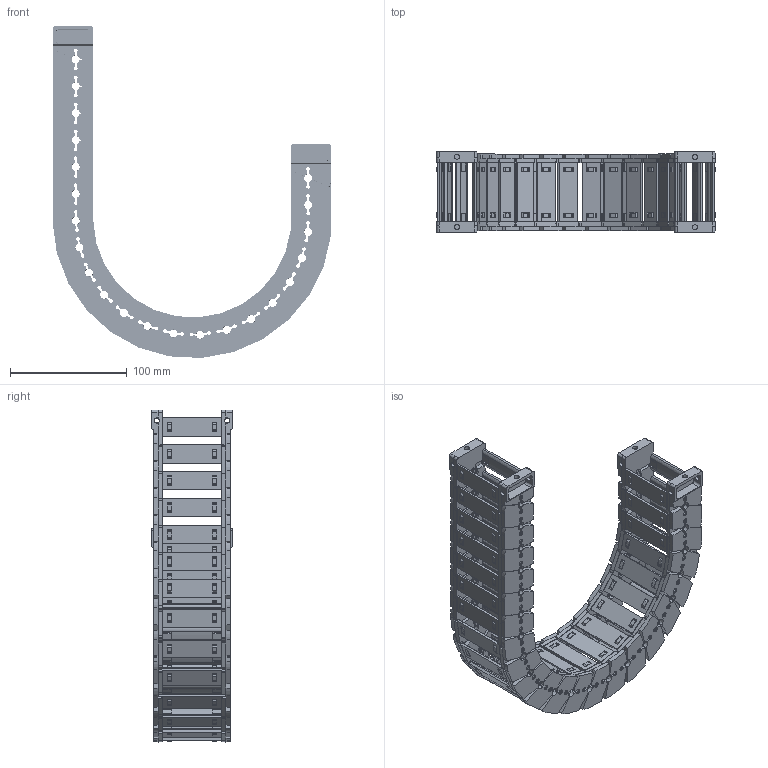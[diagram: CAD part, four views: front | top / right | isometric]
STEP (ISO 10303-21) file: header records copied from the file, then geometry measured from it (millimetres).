
FILE_DESCRIPTION((''),'2;1');
FILE_NAME('JY-28X50-R100_ASM','2026-03-25T19:26:03',('admin'),(''),'CREO PARAMETRIC BY PTC INC, 2021023','CREO PARAMETRIC BY PTC INC, 2021023','');
FILE_SCHEMA(('CONFIG_CONTROL_DESIGN'));
Length unit declared in the file: millimetre
Products named in the file (11): 28XL-L; 25-35XL-YP; 28XL-R; ASM0001_ASM; 28-LTT-A-L; 28-LTT-A-R; 28XL-LTT-A_ASM; 28-LTT-B-L; 28-LTT-B-R; 28XL-LTT-B_ASM; JY-28X50-R100_ASM
Assembly tree (35 placements, depth 3):
  JY-28X50-R100_ASM
    ASM0001_ASM  x21
      28XL-L
      25-35XL-YP
      28XL-R
    28XL-LTT-A_ASM
      28-LTT-A-L
      25-35XL-YP  x2
      28-LTT-A-R
    28XL-LTT-B_ASM
      28-LTT-B-L
      25-35XL-YP  x2
      28-LTT-B-R
Bounding box: 238.21 x 69 x 283.78 mm (x, y, z)
Volume: 349443.5 mm3; surface area: 254158.5 mm2
Topology: 92 solids, 92 shells, 7454 faces, 22156 edges, 14794 vertices
Faces by surface type: plane 4887, cone 1339, cylinder 1072, bspline 156
Entity records: 29119 total; most frequent: CARTESIAN_POINT 9493, ORIENTED_EDGE 4352, DIRECTION 3661, EDGE_CURVE 2176, VERTEX_POINT 1454, VECTOR 1365, LINE 1365, AXIS2_PLACEMENT_3D 1148
